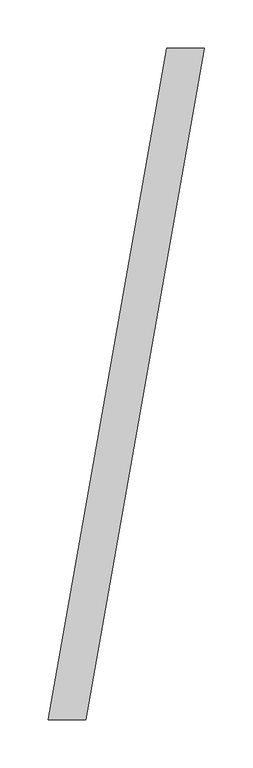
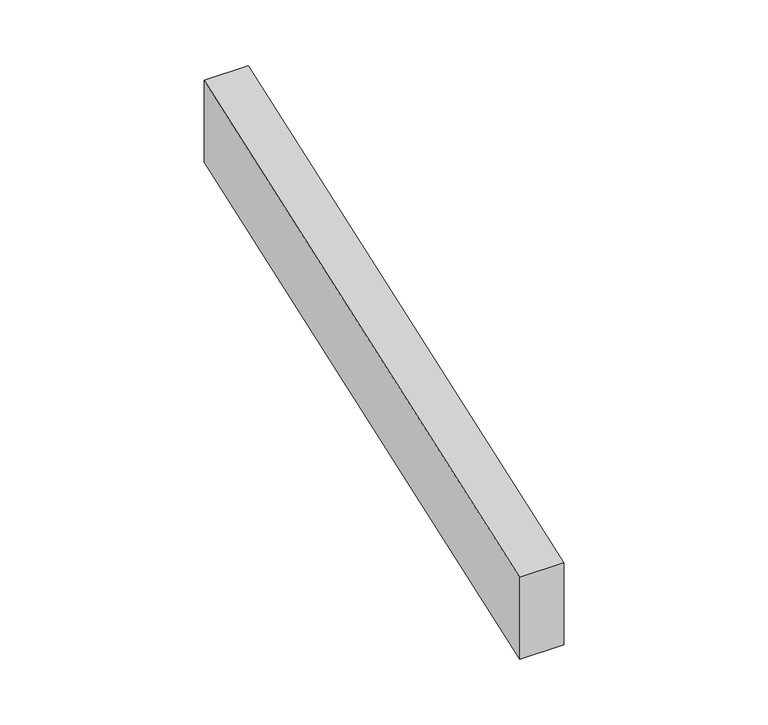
"""IFC4 building model written with IfcOpenShell, lengths in millimetres: proxy geometry, GRADIENT^TABLE 1_OCTAGON LEGS-LEG 4."""

from ifc_helpers import new_model, si_unit, frame, origin, place, context, project, spatial, polyline, outline, extrude, source, transform, mapped, element, save


def generic_models_5dfb7dac(model_context):
    return source(origin(), model_context, "Body", "SweptSolid", [
        extrude(outline(polyline([(-144.6552803, 692.15), (-105.9675264, 692.15), (-228.0122461, 0.0), (-266.7, 0.0), (-144.6552803, 692.15)])), frame((0.0, 0.0, -38.1), z_axis=(0.0, 0.0, 1.0), x_axis=(1.0, 0.0, 0.0)), (0.0, 0.0, 1.0), 76.2),
    ])


if __name__ == "__main__":
    model = new_model("IFC4")
    model_context = context("Model", 3, world=origin())
    ifc_project = project(units=[si_unit("LENGTHUNIT", "METRE", prefix="MILLI")], contexts=[model_context])
    site = spatial("IfcSite", under=ifc_project)
    building = spatial("IfcBuilding", under=site)
    placement = place(None, origin())
    generic_models_shape = generic_models_5dfb7dac(model_context)
    element("IfcBuildingElementProxy", 1, Name="GRADIENT^TABLE 1_OCTAGON LEGS-LEG 4", ObjectType="GRADIENT^TABLE 1_OCTAGON LEGS-LEG 4", at=placement, inside=building, context=model_context, shape_type="MappedRepresentation", body=[
        mapped(generic_models_shape, transform((0.0, 0.0, 0.0), x_axis=(1.0, 0.0, 0.0), y_axis=(0.0, 1.0, 0.0), z_axis=(0.0, 0.0, 1.0))),
    ])
    save(model, "model.ifc")
